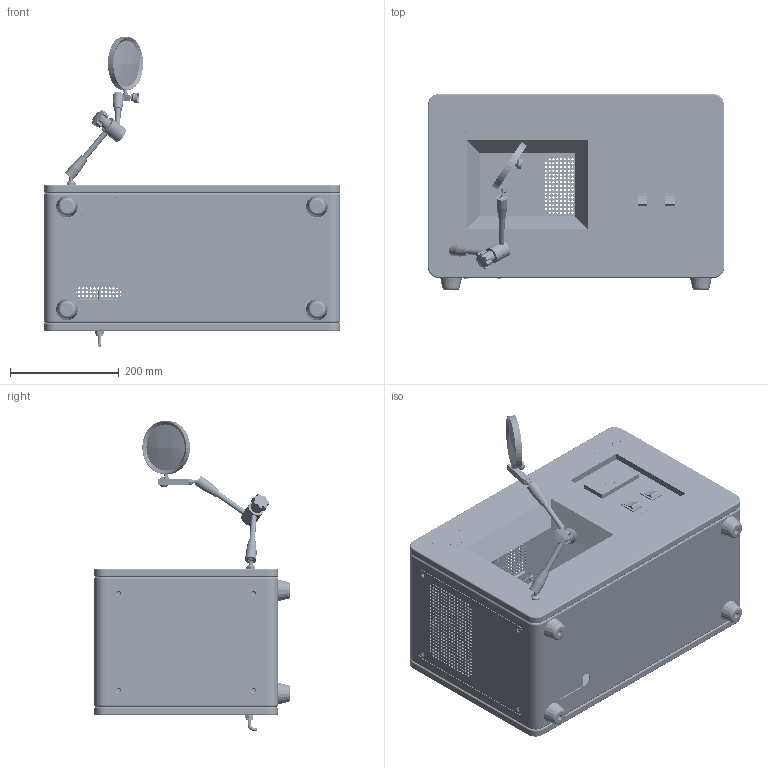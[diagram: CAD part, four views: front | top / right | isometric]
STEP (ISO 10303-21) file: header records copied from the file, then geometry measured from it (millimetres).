
FILE_DESCRIPTION (( 'STEP AP203' ), '1' );
FILE_NAME ('睛蚐潰穢痀-NFJ150.STEP', '2026-09-01T08:38:15', ( '' ), ( '' ), 'SwSTEP 2.0', 'SolidWorks 2024', '' );
FILE_SCHEMA (( 'CONFIG_CONTROL_DESIGN' ));
Length unit declared in the file: millimetre
Products named in the file (1): 氟油检漏仪-NFJ150
Bounding box: 545 x 360.5 x 571 mm (x, y, z)
Volume: 2527799.1 mm3; surface area: 2419572.2 mm2
Topology: 40 solids, 40 shells, 6127 faces, 16760 edges, 10922 vertices
Faces by surface type: cylinder 3886, plane 1766, bspline 247, cone 112, torus 86, sphere 30
Entity records: 214477 total; most frequent: CARTESIAN_POINT 46692, DIRECTION 35979, ORIENTED_EDGE 33448, EDGE_CURVE 16724, AXIS2_PLACEMENT_3D 13978, VERTEX_POINT 10916, EDGE_LOOP 9790, CIRCLE 8097
